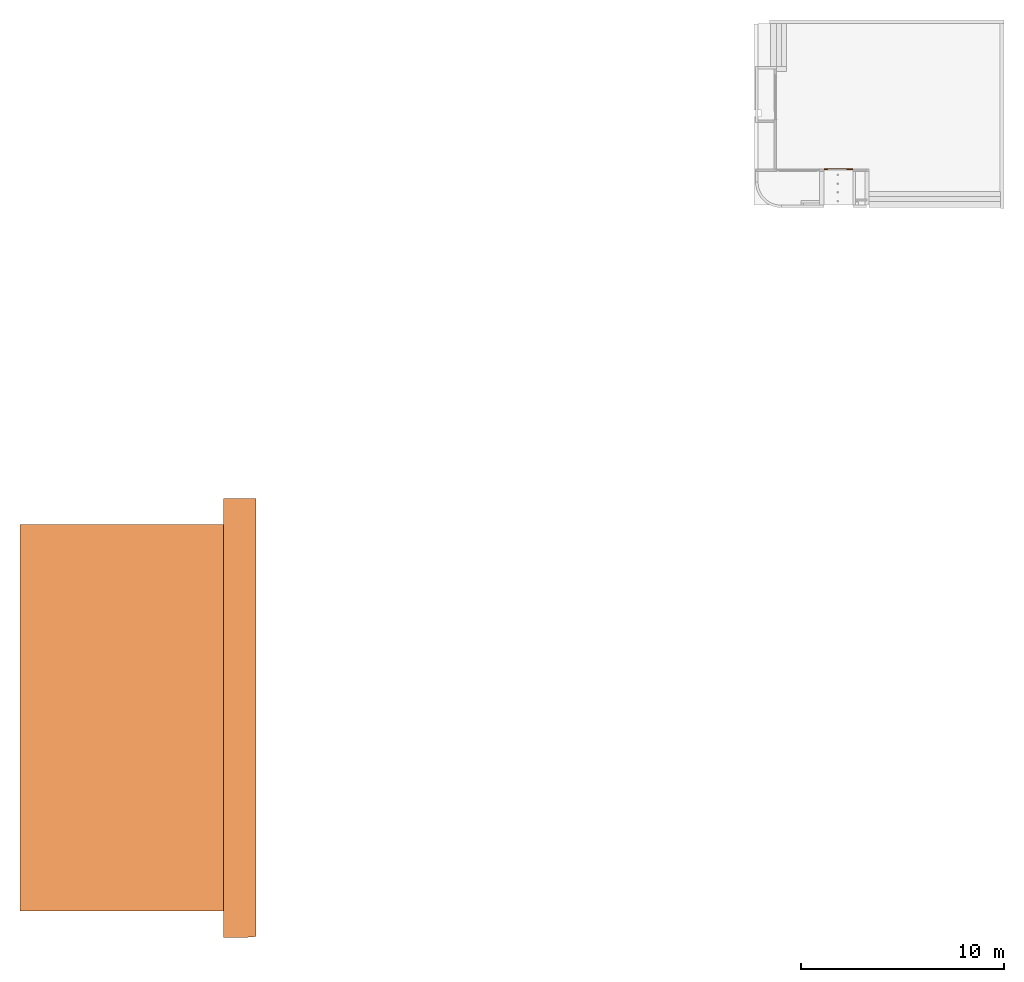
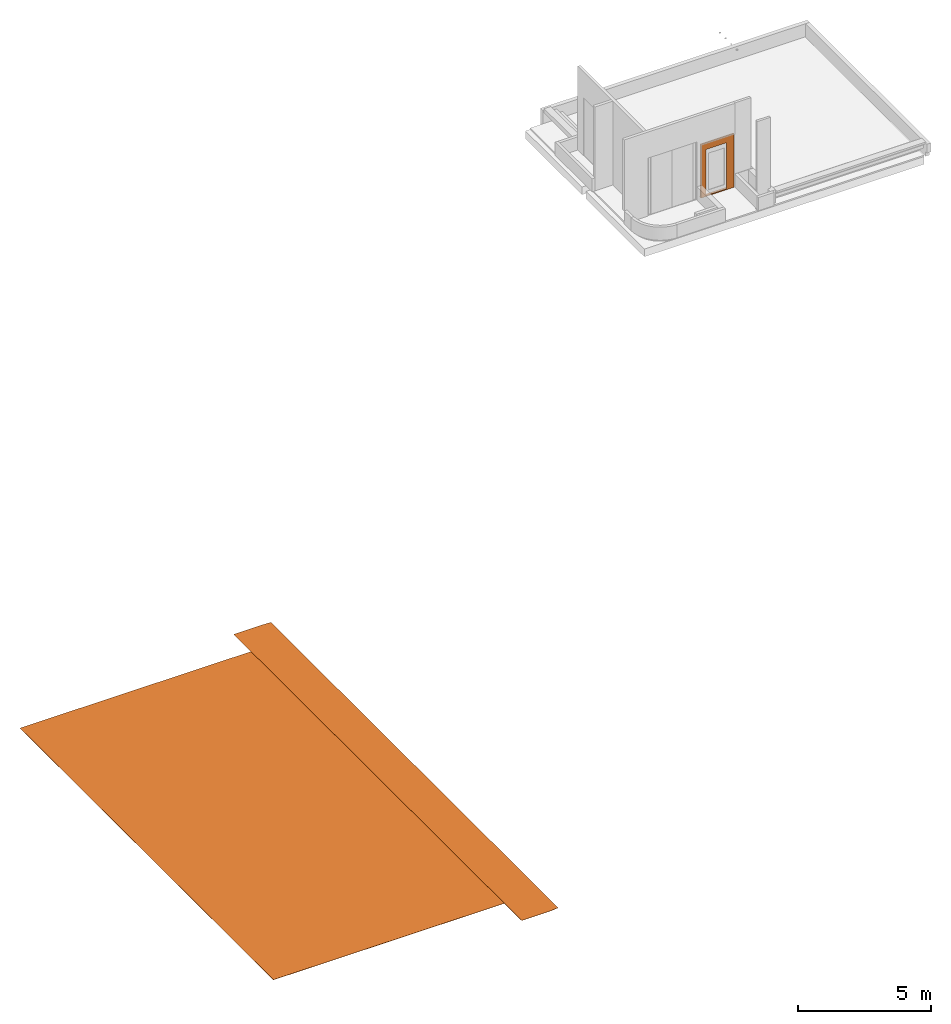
# One storey, part 6 of 6: 3 proxies.
"""IFC2X3 building model written with IfcOpenShell, lengths in millimetres."""

from ifc_helpers import new_model, entity, si_unit, converted_unit, derived_unit, direction, frame, frame_2d, origin, place, context, subcontext, project, spatial, polyline, circle_curve, parameter, trimmed, segment, composite_curve, rectangle, outline, extrude, source, transform, mapped, material, type_object, type_shapes, element, save


model = new_model("IFC2X3")

# Units and contexts
model_context = context("Model", 3, precision=0.01, world=origin(), true_north=direction((6.123031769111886e-17, 1.0)))
body_context = subcontext(model_context, "Body", "Model", "MODEL_VIEW")
ifc_project = project(units=[si_unit("LENGTHUNIT", "METRE", prefix="MILLI"), si_unit("AREAUNIT", "SQUARE_METRE"), si_unit("VOLUMEUNIT", "CUBIC_METRE"), converted_unit("PLANEANGLEUNIT", "DEGREE", entity("IfcRatioMeasure", 0.017453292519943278), si_unit("PLANEANGLEUNIT", "RADIAN"), dimensions=[0, 0, 0, 0, 0, 0, 0]), si_unit("MASSUNIT", "GRAM", prefix="KILO"), derived_unit("MASSDENSITYUNIT", [(si_unit("MASSUNIT", "GRAM", prefix="KILO"), 1), (si_unit("LENGTHUNIT", "METRE"), -3)]), derived_unit("IONCONCENTRATIONUNIT", [(si_unit("MASSUNIT", "GRAM", prefix="KILO"), 1), (si_unit("LENGTHUNIT", "METRE"), -3)]), derived_unit("MOMENTOFINERTIAUNIT", [(si_unit("LENGTHUNIT", "METRE"), 4)]), si_unit("TIMEUNIT", "SECOND"), si_unit("FREQUENCYUNIT", "HERTZ"), si_unit("THERMODYNAMICTEMPERATUREUNIT", "DEGREE_CELSIUS"), derived_unit("THERMALTRANSMITTANCEUNIT", [(si_unit("MASSUNIT", "GRAM", prefix="KILO"), 1), (si_unit("THERMODYNAMICTEMPERATUREUNIT", "KELVIN"), -1), (si_unit("TIMEUNIT", "SECOND"), -3)]), derived_unit("THERMALCONDUCTANCEUNIT", [(si_unit("MASSUNIT", "GRAM", prefix="KILO"), 1), (si_unit("THERMODYNAMICTEMPERATUREUNIT", "KELVIN"), -1), (si_unit("TIMEUNIT", "SECOND"), -3), (si_unit("LENGTHUNIT", "METRE"), 1)]), derived_unit("VOLUMETRICFLOWRATEUNIT", [(si_unit("LENGTHUNIT", "METRE"), 3), (si_unit("TIMEUNIT", "SECOND"), -1)]), derived_unit("MASSFLOWRATEUNIT", [(si_unit("MASSUNIT", "GRAM", prefix="KILO"), 1), (si_unit("TIMEUNIT", "SECOND"), -1)]), derived_unit("ROTATIONALFREQUENCYUNIT", [(si_unit("TIMEUNIT", "SECOND"), -1)]), si_unit("ELECTRICCURRENTUNIT", "AMPERE"), si_unit("ELECTRICVOLTAGEUNIT", "VOLT"), si_unit("POWERUNIT", "WATT"), si_unit("FORCEUNIT", "NEWTON", prefix="KILO"), si_unit("ILLUMINANCEUNIT", "LUX"), si_unit("LUMINOUSFLUXUNIT", "LUMEN"), si_unit("LUMINOUSINTENSITYUNIT", "CANDELA"), derived_unit("USERDEFINED", [(si_unit("MASSUNIT", "GRAM", prefix="KILO"), -1), (si_unit("LENGTHUNIT", "METRE"), -2), (si_unit("TIMEUNIT", "SECOND"), 3), (si_unit("LUMINOUSFLUXUNIT", "LUMEN"), 1)]), derived_unit("USERDEFINED", [(si_unit("MASSUNIT", "GRAM", prefix="KILO"), 1), (si_unit("TIMEUNIT", "SECOND"), -3), (si_unit("LENGTHUNIT", "METRE"), 3), (si_unit("ELECTRICCURRENTUNIT", "AMPERE"), -2)]), derived_unit("SOUNDPOWERUNIT", [(si_unit("MASSUNIT", "GRAM", prefix="KILO"), 1), (si_unit("TIMEUNIT", "SECOND"), -3), (si_unit("LENGTHUNIT", "METRE"), 2)]), derived_unit("SOUNDPRESSUREUNIT", [(si_unit("MASSUNIT", "GRAM", prefix="KILO"), 1), (si_unit("LENGTHUNIT", "METRE"), -1), (si_unit("TIMEUNIT", "SECOND"), -2)]), derived_unit("LINEARVELOCITYUNIT", [(si_unit("LENGTHUNIT", "METRE"), 1), (si_unit("TIMEUNIT", "SECOND"), -1)]), si_unit("PRESSUREUNIT", "PASCAL"), derived_unit("USERDEFINED", [(si_unit("MASSUNIT", "GRAM", prefix="KILO"), 1), (si_unit("LENGTHUNIT", "METRE"), -2), (si_unit("TIMEUNIT", "SECOND"), -2)]), derived_unit("LINEARFORCEUNIT", [(si_unit("MASSUNIT", "GRAM", prefix="KILO"), 1), (si_unit("TIMEUNIT", "SECOND"), -2)]), derived_unit("PLANARFORCEUNIT", [(si_unit("MASSUNIT", "GRAM", prefix="KILO"), 1), (si_unit("LENGTHUNIT", "METRE"), -1), (si_unit("TIMEUNIT", "SECOND"), -2)]), derived_unit("SPECIFICHEATCAPACITYUNIT", [(si_unit("THERMODYNAMICTEMPERATUREUNIT", "KELVIN"), -1), (si_unit("LENGTHUNIT", "METRE"), 2), (si_unit("TIMEUNIT", "SECOND"), -2)]), derived_unit("HEATINGVALUEUNIT", [(si_unit("LENGTHUNIT", "METRE"), 2), (si_unit("TIMEUNIT", "SECOND"), -2)]), derived_unit("VAPORPERMEABILITYUNIT", [(si_unit("LENGTHUNIT", "METRE"), -1), (si_unit("TIMEUNIT", "SECOND"), 1)]), derived_unit("DYNAMICVISCOSITYUNIT", [(si_unit("MASSUNIT", "GRAM", prefix="KILO"), 1), (si_unit("TIMEUNIT", "SECOND"), -1), (si_unit("LENGTHUNIT", "METRE"), -1)]), derived_unit("THERMALEXPANSIONCOEFFICIENTUNIT", [(si_unit("THERMODYNAMICTEMPERATUREUNIT", "KELVIN"), -1)]), derived_unit("MODULUSOFELASTICITYUNIT", [(si_unit("MASSUNIT", "GRAM", prefix="KILO"), 1), (si_unit("LENGTHUNIT", "METRE"), -1), (si_unit("TIMEUNIT", "SECOND"), -2)]), derived_unit("ISOTHERMALMOISTURECAPACITYUNIT", [(si_unit("LENGTHUNIT", "METRE"), 3), (si_unit("MASSUNIT", "GRAM", prefix="KILO"), -1)]), derived_unit("MOISTUREDIFFUSIVITYUNIT", [(si_unit("TIMEUNIT", "SECOND"), -1), (si_unit("LENGTHUNIT", "METRE"), 2)])], contexts=[model_context])

# Site, building, storey
site_placement = place(None, frame((0.0, 300.0, 0.0)))
site = spatial("IfcSite", under=ifc_project, at=site_placement, Name="<Kadastrale nummers>", CompositionType="ELEMENT")
building_placement = place(site_placement, origin())
building = spatial("IfcBuilding", under=site, at=building_placement, CompositionType="ELEMENT")
storey_placement = place(building_placement, frame((0.0, 0.0, -600.0)))
storey = spatial("IfcBuildingStorey", under=building, at=storey_placement, Name="-1 Speelvloer", CompositionType="ELEMENT", Elevation=-599.9999999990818)

# Proxies
ifc_material = material(Name="cibes_RAL_9016")
building_element_proxy_type_1 = type_object("IfcBuildingElementProxyType", Name="A-side_Door_aluminium:1100 x 1467 - Left hinged", PredefinedType="NOTDEFINED", material=ifc_material)
shared_shape = source(origin(), body_context, "Body", "SweptSolid", [
    extrude(outline(polyline([(-31.666666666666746, -31.666666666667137), (-26.66666666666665, -31.666666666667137), (-26.66666666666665, 13.333333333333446), (58.33333333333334, 13.333333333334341), (58.33333333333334, 18.333333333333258), (-31.666666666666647, 18.333333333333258), (-31.666666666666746, -31.666666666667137)])), frame((0.0, 31.666666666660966, 31.666666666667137), z_axis=(1.0, 0.0, 0.0), x_axis=(0.0, 1.0, 0.0)), (0.0, 0.0, 1.0), 1440.0000000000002),
    extrude(outline(polyline([(-720.0, -1230.0), (720.0, -1230.0), (720.0, 1230.0), (-720.0, 1230.0), (-720.0, -1230.0)]), holes=[polyline([(-500.0, -920.0), (-500.0, 1180.0), (400.0, 1180.0), (400.0, -920.0), (-500.0, -920.0)])]), frame((720.0, 0.0, 1230.0), z_axis=(0.0, 1.0, 0.0), x_axis=(1.0, 0.0, 0.0)), (0.0, 0.0, 1.0), 54.999999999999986),
])
type_shapes(building_element_proxy_type_1, [shared_shape])
proxy_1_placement = place(storey_placement, frame((39813.99978599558, 42490.0, -45.0)))
element("IfcBuildingElementProxy", 1, at=proxy_1_placement, inside=storey, type_object=building_element_proxy_type_1, material=ifc_material, Name="A-side_Door_aluminium:1100 x 1467 - Left hinged", ObjectType="A-side_Door_aluminium:1100 x 1467 - Left hinged", context=body_context, shape_type="MappedRepresentation", body=[
    mapped(shared_shape, transform((0.0, 0.0, 0.0), scale=1.0)),
])
building_element_proxy_type_2 = type_object("IfcBuildingElementProxyType", Name="Sub-Division", PredefinedType="NOTDEFINED")
proxy_2_placement = place(storey_placement, origin())
element("IfcBuildingElementProxy", 2, at=proxy_2_placement, inside=storey, type_object=building_element_proxy_type_2, Name="Sub-Division", context=body_context, shape_type="SweptSolid", body=[
    extrude(rectangle(XDim=9999.325622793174, YDim=18999.547311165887, at=frame_2d((-9.094947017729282e-13, 0.0), x_axis=(1.0, 0.0))), frame((5273.406627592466, 15551.1040107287, 120.0), z_axis=(0.0, 0.0, 1.0), x_axis=(-1.0, 0.0, 0.0)), (0.0, 0.0, 1.0), 10.000000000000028),
])
building_element_proxy_type_3 = type_object("IfcBuildingElementProxyType", Name="Sub-Division", PredefinedType="NOTDEFINED")
proxy_3_placement = place(storey_placement, origin())
element("IfcBuildingElementProxy", 3, at=proxy_3_placement, inside=storey, type_object=building_element_proxy_type_3, Name="Sub-Division", context=body_context, shape_type="SweptSolid", body=[
    extrude(outline(composite_curve([segment(polyline([(9503.57299422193, -670.1469828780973), (10800.501457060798, -670.1469828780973)]), True, "CONTINUOUS"), segment(polyline([(10800.501457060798, -670.1469828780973), (10800.501457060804, 429.33653113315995)]), True, "CONTINUOUS"), segment(trimmed(circle_curve(frame_2d((7802.493662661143, 431.35244205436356), x_axis=(0.999999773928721, -0.0006724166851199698)), 2998.0084721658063), [parameter(0.0)], [parameter(9.619603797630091)], True, "PARAMETER"), True, "CONTINUOUS"), segment(polyline([(10758.683098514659, 930.3502562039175), (-10778.29069652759, 930.3502562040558)]), True, "CONTINUOUS"), segment(trimmed(circle_curve(frame_2d((-1796.5764618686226, 390.5508879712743), x_axis=(-0.9981988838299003, 0.0599915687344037)), 8997.920534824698), [parameter(0.0)], [parameter(3.4393288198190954)], True, "PARAMETER"), True, "CONTINUOUS"), segment(polyline([(-10794.496996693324, 390.5508879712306), (-10794.496996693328, -670.1469828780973)]), True, "CONTINUOUS"), segment(polyline([(-10794.496996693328, -670.1469828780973), (-9495.974316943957, -670.1469828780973)]), True, "CONTINUOUS"), segment(polyline([(-9495.974316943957, -670.1469828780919), (9503.57299422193, -670.1469828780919)]), True, "CONTINUOUS")], self_intersect=False)), frame((10943.216421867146, 15554.903349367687, 120.0), z_axis=(0.0, 0.0, 1.0), x_axis=(0.0, -1.0, 0.0)), (0.0, 0.0, 1.0), 10.000000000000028),
])

save(model, "model.ifc")
